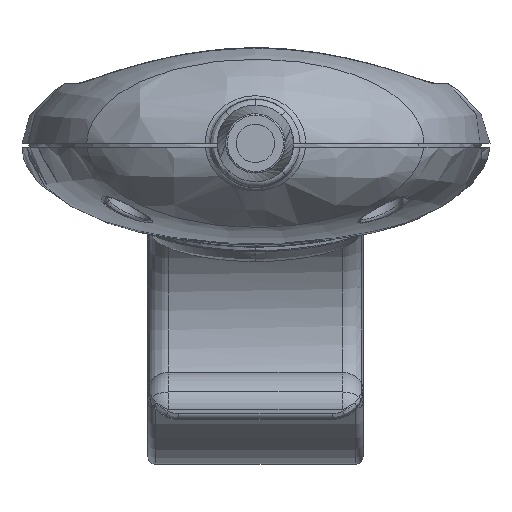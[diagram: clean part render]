
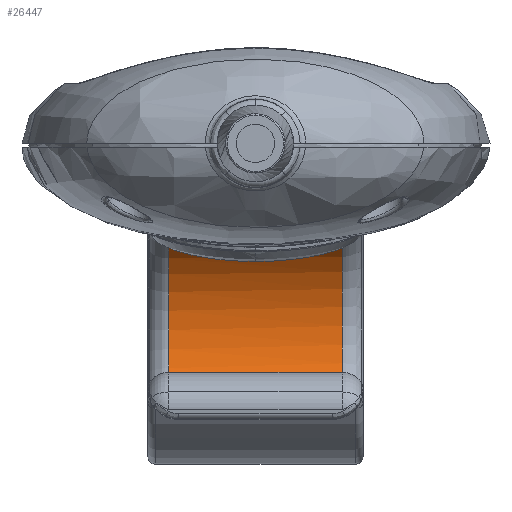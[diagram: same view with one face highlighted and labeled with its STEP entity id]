
A CAD part, front view. The second image highlights one B-rep face of the part: STEP entity #26447.
In plain terms, the highlighted cylindrical face has radius 14.5 mm (diameter 29 mm), a partial arc.
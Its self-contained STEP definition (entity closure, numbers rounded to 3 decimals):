
#433 = VERTEX_POINT ( 'NONE', #22072 ) ;
#482 = LINE ( 'NONE', #35041, #14575 ) ;
#751 = ORIENTED_EDGE ( 'NONE', *, *, #8452, .T. ) ;
#1043 = DIRECTION ( 'NONE',  ( 0., 0., 1. ) ) ;
#2111 = AXIS2_PLACEMENT_3D ( 'NONE', #19910, #22927, #37855 ) ;
#2621 = EDGE_CURVE ( 'NONE', #433, #17924, #8389, .T. ) ;
#2720 = FACE_OUTER_BOUND ( 'NONE', #7507, .T. ) ;
#2739 = DIRECTION ( 'NONE',  ( -1., 0., 0. ) ) ;
#3598 = DIRECTION ( 'NONE',  ( -1., 0., 0. ) ) ;
#5070 = AXIS2_PLACEMENT_3D ( 'NONE', #21557, #3598, #24576 ) ;
#6375 = EDGE_CURVE ( 'NONE', #18211, #26589, #16064, .T. ) ;
#7213 = ORIENTED_EDGE ( 'NONE', *, *, #7684, .F. ) ;
#7507 = EDGE_LOOP ( 'NONE', ( #7213, #7640, #751, #37417, #21673 ) ) ;
#7640 = ORIENTED_EDGE ( 'NONE', *, *, #2621, .T. ) ;
#7684 = EDGE_CURVE ( 'NONE', #433, #26589, #33813, .T. ) ;
#8389 = CIRCLE ( 'NONE', #32852, 14.5 ) ;
#8452 = EDGE_CURVE ( 'NONE', #17924, #16991, #482, .T. ) ;
#13391 = AXIS2_PLACEMENT_3D ( 'NONE', #35415, #17480, #38421 ) ;
#14105 = DIRECTION ( 'NONE',  ( -1., 0., 0. ) ) ;
#14575 = VECTOR ( 'NONE', #14105, 1000. ) ;
#16064 = CIRCLE ( 'NONE', #5070, 14.5 ) ;
#16846 = CYLINDRICAL_SURFACE ( 'NONE', #2111, 14.5 ) ;
#16991 = VERTEX_POINT ( 'NONE', #33643 ) ;
#17480 = DIRECTION ( 'NONE',  ( -1., 0., 0. ) ) ;
#17868 = VECTOR ( 'NONE', #2739, 1000. ) ;
#17924 = VERTEX_POINT ( 'NONE', #24839 ) ;
#18211 = VERTEX_POINT ( 'NONE', #35906 ) ;
#18992 = DIRECTION ( 'NONE',  ( 1., 0., 0. ) ) ;
#19910 = CARTESIAN_POINT ( 'NONE',  ( 14.011, 102., -24.299 ) ) ;
#21557 = CARTESIAN_POINT ( 'NONE',  ( -11.259, 102., -24.299 ) ) ;
#21673 = ORIENTED_EDGE ( 'NONE', *, *, #6375, .T. ) ;
#22072 = CARTESIAN_POINT ( 'NONE',  ( 11.281, 90.202, -32.729 ) ) ;
#22927 = DIRECTION ( 'NONE',  ( -1., 0., 0. ) ) ;
#24576 = DIRECTION ( 'NONE',  ( 0., 0., -1. ) ) ;
#24839 = CARTESIAN_POINT ( 'NONE',  ( 11.281, 102., -9.799 ) ) ;
#26447 = ADVANCED_FACE ( 'NONE', ( #2720 ), #16846, .F. ) ;
#26487 = CIRCLE ( 'NONE', #13391, 14.5 ) ;
#26589 = VERTEX_POINT ( 'NONE', #36904 ) ;
#29698 = CARTESIAN_POINT ( 'NONE',  ( 14.011, 90.202, -32.729 ) ) ;
#32852 = AXIS2_PLACEMENT_3D ( 'NONE', #36936, #18992, #1043 ) ;
#33643 = CARTESIAN_POINT ( 'NONE',  ( -11.259, 102., -9.799 ) ) ;
#33813 = LINE ( 'NONE', #29698, #17868 ) ;
#35041 = CARTESIAN_POINT ( 'NONE',  ( 14.011, 102., -9.799 ) ) ;
#35415 = CARTESIAN_POINT ( 'NONE',  ( -11.259, 102., -24.299 ) ) ;
#35906 = CARTESIAN_POINT ( 'NONE',  ( -11.259, 102., -38.799 ) ) ;
#36904 = CARTESIAN_POINT ( 'NONE',  ( -11.259, 90.202, -32.729 ) ) ;
#36936 = CARTESIAN_POINT ( 'NONE',  ( 11.281, 102., -24.299 ) ) ;
#37417 = ORIENTED_EDGE ( 'NONE', *, *, #38563, .T. ) ;
#37855 = DIRECTION ( 'NONE',  ( 0., 0., 1. ) ) ;
#38421 = DIRECTION ( 'NONE',  ( 0., 0., -1. ) ) ;
#38563 = EDGE_CURVE ( 'NONE', #16991, #18211, #26487, .T. ) ;
